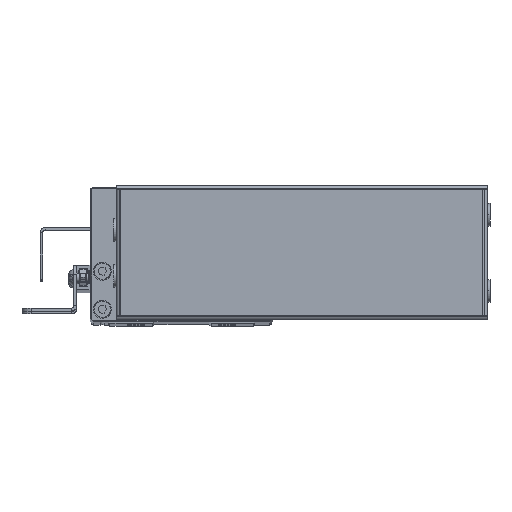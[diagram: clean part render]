
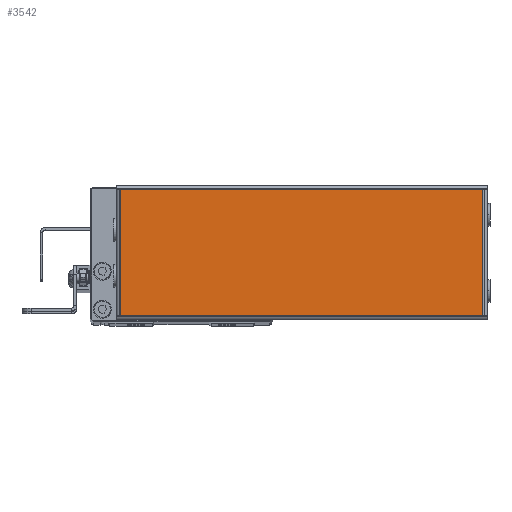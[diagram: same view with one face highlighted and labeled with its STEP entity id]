
A CAD part, top view. The second image highlights one B-rep face of the part: STEP entity #3542.
In plain terms, the highlighted planar face has unit normal (0, 0, 1) as drawn and (0, 0, -1) by its records, which use the part's own axes.
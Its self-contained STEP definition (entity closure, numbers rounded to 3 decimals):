
#2247 = CARTESIAN_POINT ( 'NONE',  ( 122., 1.3, -1. ) ) ;
#3542 = ADVANCED_FACE ( 'NONE', ( #54102 ), #22457, .T. ) ;
#4912 = ORIENTED_EDGE ( 'NONE', *, *, #42137, .T. ) ;
#6959 = EDGE_CURVE ( 'NONE', #14564, #56114, #27428, .T. ) ;
#11714 = CARTESIAN_POINT ( 'NONE',  ( 120.5, 42.7, -1. ) ) ;
#12480 = CARTESIAN_POINT ( 'NONE',  ( 0., 0., -1. ) ) ;
#13745 = DIRECTION ( 'NONE',  ( 1., 0., 0. ) ) ;
#13779 = VERTEX_POINT ( 'NONE', #35583 ) ;
#14024 = ORIENTED_EDGE ( 'NONE', *, *, #6959, .T. ) ;
#14236 = VECTOR ( 'NONE', #13745, 1000. ) ;
#14564 = VERTEX_POINT ( 'NONE', #41616 ) ;
#15002 = CARTESIAN_POINT ( 'NONE',  ( 120.5, 1.3, -1. ) ) ;
#15256 = DIRECTION ( 'NONE',  ( 0., 1., 0. ) ) ;
#16851 = VECTOR ( 'NONE', #15256, 1000. ) ;
#21089 = ORIENTED_EDGE ( 'NONE', *, *, #34674, .T. ) ;
#21306 = CARTESIAN_POINT ( 'NONE',  ( 120.5, 42.7, -1. ) ) ;
#22457 = PLANE ( 'NONE',  #28796 ) ;
#22935 = CARTESIAN_POINT ( 'NONE',  ( 0., 42.7, -1. ) ) ;
#23516 = LINE ( 'NONE', #2247, #33693 ) ;
#27428 = LINE ( 'NONE', #22935, #14236 ) ;
#28796 = AXIS2_PLACEMENT_3D ( 'NONE', #12480, #31443, #36143 ) ;
#31443 = DIRECTION ( 'NONE',  ( 0., 0., -1. ) ) ;
#33693 = VECTOR ( 'NONE', #59831, 1000. ) ;
#34674 = EDGE_CURVE ( 'NONE', #41605, #13779, #23516, .T. ) ;
#35583 = CARTESIAN_POINT ( 'NONE',  ( 1.5, 1.3, -1. ) ) ;
#36143 = DIRECTION ( 'NONE',  ( -1., 0., 0. ) ) ;
#40086 = DIRECTION ( 'NONE',  ( 0., -1., 0. ) ) ;
#41605 = VERTEX_POINT ( 'NONE', #15002 ) ;
#41616 = CARTESIAN_POINT ( 'NONE',  ( 1.5, 42.7, -1. ) ) ;
#42137 = EDGE_CURVE ( 'NONE', #13779, #14564, #51191, .T. ) ;
#42730 = EDGE_CURVE ( 'NONE', #56114, #41605, #46743, .T. ) ;
#46743 = LINE ( 'NONE', #11714, #53294 ) ;
#48130 = EDGE_LOOP ( 'NONE', ( #14024, #53232, #21089, #4912 ) ) ;
#51191 = LINE ( 'NONE', #52638, #16851 ) ;
#52638 = CARTESIAN_POINT ( 'NONE',  ( 1.5, 1.3, -1. ) ) ;
#53232 = ORIENTED_EDGE ( 'NONE', *, *, #42730, .T. ) ;
#53294 = VECTOR ( 'NONE', #40086, 1000. ) ;
#54102 = FACE_OUTER_BOUND ( 'NONE', #48130, .T. ) ;
#56114 = VERTEX_POINT ( 'NONE', #21306 ) ;
#59831 = DIRECTION ( 'NONE',  ( -1., 0., 0. ) ) ;
